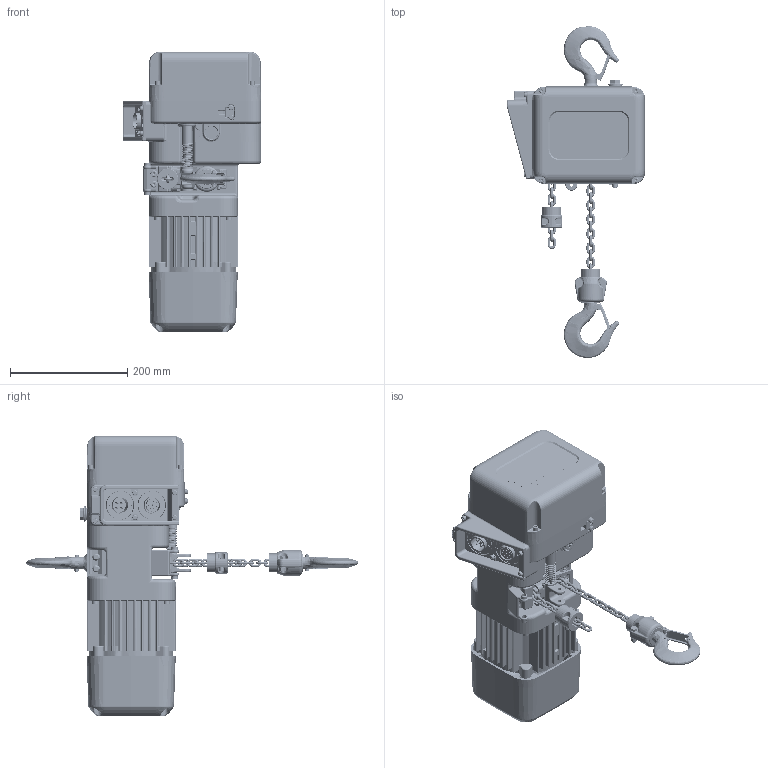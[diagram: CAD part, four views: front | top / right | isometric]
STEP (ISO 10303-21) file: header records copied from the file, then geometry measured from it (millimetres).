
FILE_DESCRIPTION (( 'STEP AP214' ), '1' );
FILE_NAME ('NER2001H.STEP', '2026-08-03T15:04:52', ( '' ), ( '' ), 'SwSTEP 2.0', 'SolidWorks 2026', '' );
FILE_SCHEMA (( 'AUTOMOTIVE_DESIGN' ));
Length unit declared in the file: millimetre
Products named in the file (47): ER2CS9001; LCER2003NP; NER2001H; ER2BS9053; ER2BS9337; ER2CS9186; ER2CS9511; ER2CS2564; ER2BS9331; M6F554010; ER2BS9107; ER2BS9103; ER2BH2015; ER1BS9135; ES127005S; E3S111003; ER2BHM01H9A6; ER2CS9357; LCER2003NP (SHAPED); ER2BS9104_ER2BS9104; ER2BH1011; socket head cap screw_am_B18.3.1M - 6 x 1.0 x 12 Hex SHCS -- 12CHX; ER2BH9011; J1BG10504022_J1BG10504022; ER2BS9338; ER2CS9121; J1BY9-0602525_B18.2.3.1M - Hex cap screw, M6 x 1.0 x 25 --25C; ER1BS9535; 9091252_B18.3.1M - 6 x 1.0 x 30 Hex SHCS -- 30CHX; MS561010; ER2BS9105; J1NA001-20060_B18.2.4.1M - Hex nut, Style 1,  M6 x 1 --D-C; ER2BH9015; ES558003; ER2CS2523; ER2CS9123; ER2BHM03S9A31; ER2BS9101; single coil rectangular section spring washer_bsi_Rectangular section spring washer BS 4464 - 16 (Type B); ER2CS1001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
Assembly tree (114 placements, depth 4):
  NER2001H
    ER2BS9104_ER2BS9104
    ER2BS9103
    ER2BS9101
    ER2BS9105
    ER2BS9107
    9091234_B18.3.1M - 5 x 0.8 x 45 Hex SHCS -- 22CHX  x4
    9091252_B18.3.1M - 6 x 1.0 x 30 Hex SHCS -- 30CHX  x4
    E3S111003  x2
    E3S112003  x2
    ER2CS1001
      ER2CS9001
      ER2CS1002
    ER2CS9121  x2
    ER2CS9186
    ER2CS9123
    socket head cap screw_am_B18.3.1M - 6 x 1.0 x 12 Hex SHCS -- 12CHX
    ER2BS9331
    ER2BS9338
    ER2BS9337
    ER2CS9357
    ER2BH1011
      ER2BH9011
      ER2BH2015
        ER2BH9015  x2
        J1BY9-0602525_B18.2.3.1M - Hex cap screw, M6 x 1.0 x 25 --25C  x2
        J1WS011-20060_Rectangular section spring washer BS 4464 - 16 (Type B)  x2
        J1NA001-20060_B18.2.4.1M - Hex nut, Style 1,  M6 x 1 --D-C  x2
      ER2CS1002
    LCER2003NP
      LCER2003NP  x18
    ER2BS9053  x2
    9091251_9091251  x4
    single coil rectangular section spring washer_bsi_Rectangular section spring washer BS 4464 - 16 (Type B)  x4
    ER2CS9511
    ER2CS2523
    ER2CS2564
    LCER2003NP (SHAPED)
      LCER2003NP  x14
    ER2BHM03S9A31
    ES1045003
    ER1BS9135
    ES558003  x8
    MS561010  x6
    ES127005S
    ER1BS9535
    M6F554010  x2
    ER2BHM01H9A6
    J1BG10504022_J1BG10504022  x4
Bounding box: 236 x 565.89 x 477.5 mm (x, y, z)
Volume: 7231764.4 mm3; surface area: 1007162 mm2
Topology: 129 solids, 129 shells, 5214 faces, 14128 edges, 9187 vertices
Faces by surface type: cylinder 1879, plane 1856, torus 657, bspline 403, cone 358, sphere 61
Entity records: 161466 total; most frequent: CARTESIAN_POINT 58584, ORIENTED_EDGE 21400, DIRECTION 20302, EDGE_CURVE 10700, AXIS2_PLACEMENT_3D 7500, VERTEX_POINT 7136, LINE 5302, VECTOR 5302
